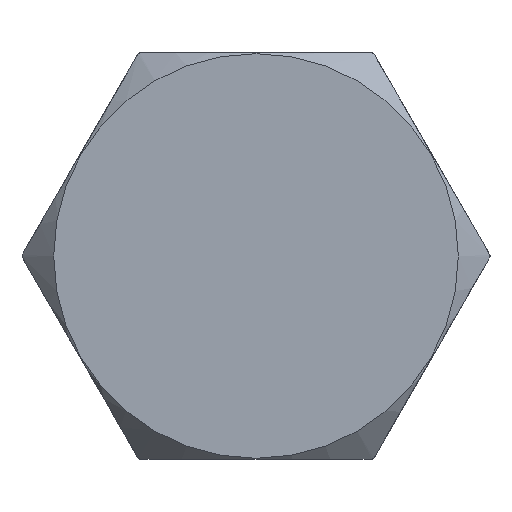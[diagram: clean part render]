
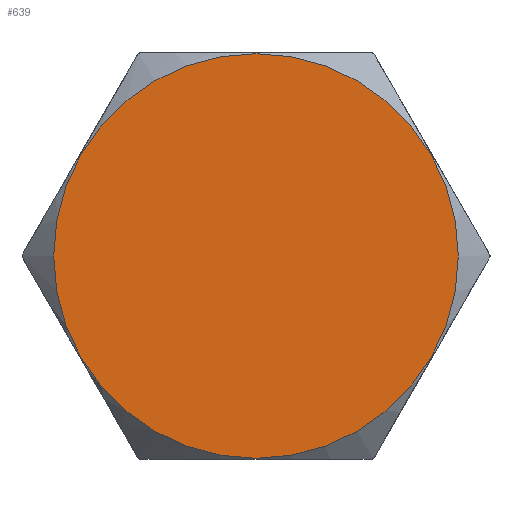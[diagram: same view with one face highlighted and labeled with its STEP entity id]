
A CAD part, front view. The second image highlights one B-rep face of the part: STEP entity #639.
In plain terms, the highlighted planar face has unit normal (0, -1, 0).
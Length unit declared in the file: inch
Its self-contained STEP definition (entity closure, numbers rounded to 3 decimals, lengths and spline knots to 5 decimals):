
#41=PLANE('',#736);
#147=FACE_OUTER_BOUND('',#187,.T.);
#187=EDGE_LOOP('',(#594));
#232=CIRCLE('',#733,0.498);
#306=VERTEX_POINT('',#1220);
#400=EDGE_CURVE('',#306,#306,#232,.T.);
#594=ORIENTED_EDGE('',*,*,#400,.F.);
#639=ADVANCED_FACE('',(#147),#41,.T.);
#733=AXIS2_PLACEMENT_3D('',#1221,#922,#923);
#736=AXIS2_PLACEMENT_3D('',#1225,#929,#930);
#922=DIRECTION('center_axis',(0.,1.,0.));
#923=DIRECTION('ref_axis',(0.,0.,1.));
#929=DIRECTION('center_axis',(0.,-1.,0.));
#930=DIRECTION('ref_axis',(0.,0.,-1.));
#1220=CARTESIAN_POINT('',(0.,0.,-0.498));
#1221=CARTESIAN_POINT('Origin',(0.,0.,0.));
#1225=CARTESIAN_POINT('Origin',(0.,0.,0.));
